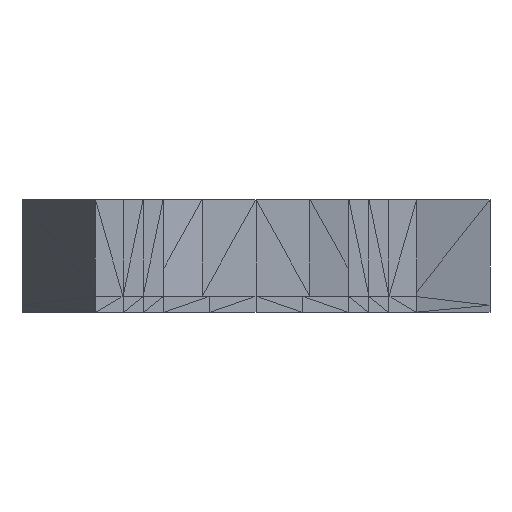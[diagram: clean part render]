
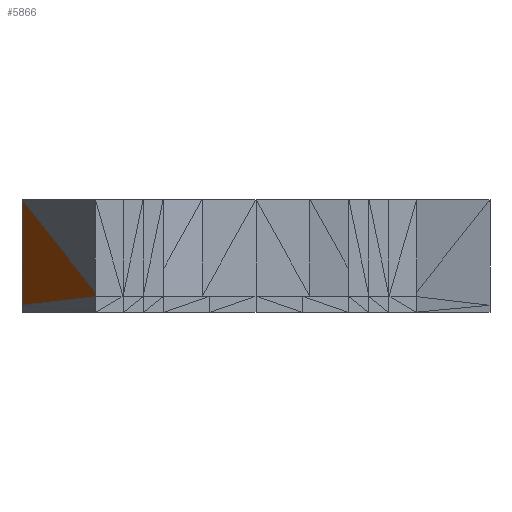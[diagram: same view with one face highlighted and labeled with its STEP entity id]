
A CAD part, front view. The second image highlights one B-rep face of the part: STEP entity #5866.
In plain terms, the highlighted planar face has unit normal (-0.911, -0.411, 0).
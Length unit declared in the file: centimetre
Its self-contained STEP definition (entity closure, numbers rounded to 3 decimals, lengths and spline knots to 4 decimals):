
#54=DIRECTION('',(0.,0.,-1.));
#515=DIRECTION('',(-0.365,0.809,0.461));
#519=DIRECTION('',(-0.411,0.91,-0.048));
#535=VECTOR('',#54,1.);
#996=VECTOR('',#515,1.);
#1000=VECTOR('',#519,1.);
#1009=CARTESIAN_POINT('',(-361.1296,68.9726,-16.1069));
#1010=CARTESIAN_POINT('',(-361.1296,68.9726,8.3787));
#1040=CARTESIAN_POINT('',(-343.3869,29.651,-14.0257));
#1212=VERTEX_POINT('',#1009);
#1213=VERTEX_POINT('',#1010);
#1243=VERTEX_POINT('',#1040);
#1415=LINE('',#1010,#535);
#1485=LINE('',#1040,#1000);
#1486=LINE('',#1040,#996);
#2018=EDGE_CURVE('',#1213,#1212,#1415,.T.);
#2088=EDGE_CURVE('',#1243,#1212,#1485,.T.);
#2089=EDGE_CURVE('',#1243,#1213,#1486,.T.);
#2621=ORIENTED_EDGE('',*,*,#2018,.T.);
#2692=ORIENTED_EDGE('',*,*,#2089,.T.);
#3294=ORIENTED_EDGE('',*,*,#2088,.F.);
#3856=EDGE_LOOP('',(#2621,#3294,#2692));
#4258=FACE_OUTER_BOUND('',#3856,.T.);
#4690=DIRECTION('',(-0.912,-0.411,0.));
#4691=AXIS2_PLACEMENT_3D('',#1010,#4690,#54);
#5464=PLANE('',#4691);
#5866=ADVANCED_FACE('',(#4258),#5464,.T.);
